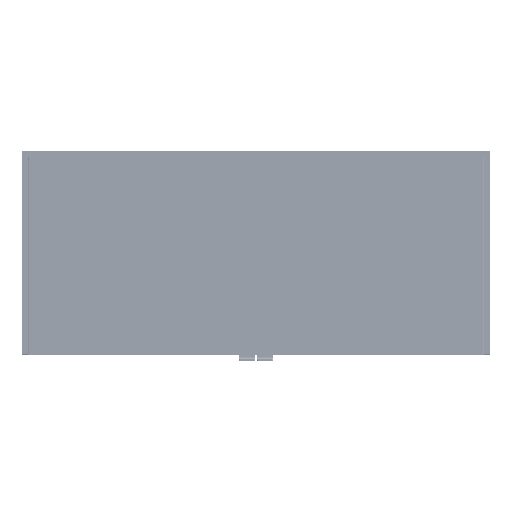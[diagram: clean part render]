
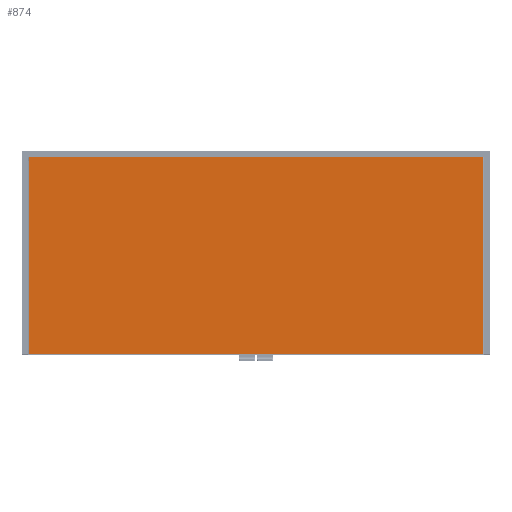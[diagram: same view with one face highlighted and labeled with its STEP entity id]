
A CAD part, top view. The second image highlights one B-rep face of the part: STEP entity #874.
In plain terms, the highlighted planar face has unit normal (0, 0, 1).
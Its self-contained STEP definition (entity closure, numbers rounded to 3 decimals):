
#874=ADVANCED_FACE('',(#7954),#106984,.T.);
#7954=FACE_OUTER_BOUND('',#14524,.T.);
#14524=EDGE_LOOP('',(#23763,#23764,#23765,#23766));
#23763=ORIENTED_EDGE('',*,*,#57552,.T.);
#23764=ORIENTED_EDGE('',*,*,#57555,.T.);
#23765=ORIENTED_EDGE('',*,*,#57553,.T.);
#23766=ORIENTED_EDGE('',*,*,#57554,.T.);
#57552=EDGE_CURVE('',#92270,#92271,#82207,.T.);
#57553=EDGE_CURVE('',#92272,#92273,#82208,.T.);
#57554=EDGE_CURVE('',#92273,#92270,#82209,.T.);
#57555=EDGE_CURVE('',#92271,#92272,#82210,.T.);
#82207=B_SPLINE_CURVE_WITH_KNOTS('',1,(#140579,#140580),.UNSPECIFIED.,.F.,
 .F.,(2,2),(1.,1119.),.UNSPECIFIED.);
#82208=B_SPLINE_CURVE_WITH_KNOTS('',1,(#140581,#140582),.UNSPECIFIED.,.F.,
 .F.,(2,2),(1.,1119.),.UNSPECIFIED.);
#82209=B_SPLINE_CURVE_WITH_KNOTS('',1,(#140583,#140584),.UNSPECIFIED.,.F.,
 .F.,(2,2),(1.,484.),.UNSPECIFIED.);
#82210=B_SPLINE_CURVE_WITH_KNOTS('',1,(#140585,#140586),.UNSPECIFIED.,.F.,
 .F.,(2,2),(1.,484.),.UNSPECIFIED.);
#92270=VERTEX_POINT('',#140535);
#92271=VERTEX_POINT('',#140536);
#92272=VERTEX_POINT('',#140537);
#92273=VERTEX_POINT('',#140538);
#106984=PLANE('',#109699);
#109699=AXIS2_PLACEMENT_3D('',#140312,#112330,$);
#112330=DIRECTION('',(0.,0.,1.));
#140312=CARTESIAN_POINT('',(265.,-90.,1258.));
#140535=CARTESIAN_POINT('',(266.,-574.,1258.));
#140536=CARTESIAN_POINT('',(1384.,-574.,1258.));
#140537=CARTESIAN_POINT('',(1384.,-91.,1258.));
#140538=CARTESIAN_POINT('',(266.,-91.,1258.));
#140579=CARTESIAN_POINT('',(266.,-574.,1258.));
#140580=CARTESIAN_POINT('',(1384.,-574.,1258.));
#140581=CARTESIAN_POINT('',(1384.,-91.,1258.));
#140582=CARTESIAN_POINT('',(266.,-91.,1258.));
#140583=CARTESIAN_POINT('',(266.,-91.,1258.));
#140584=CARTESIAN_POINT('',(266.,-574.,1258.));
#140585=CARTESIAN_POINT('',(1384.,-574.,1258.));
#140586=CARTESIAN_POINT('',(1384.,-91.,1258.));
